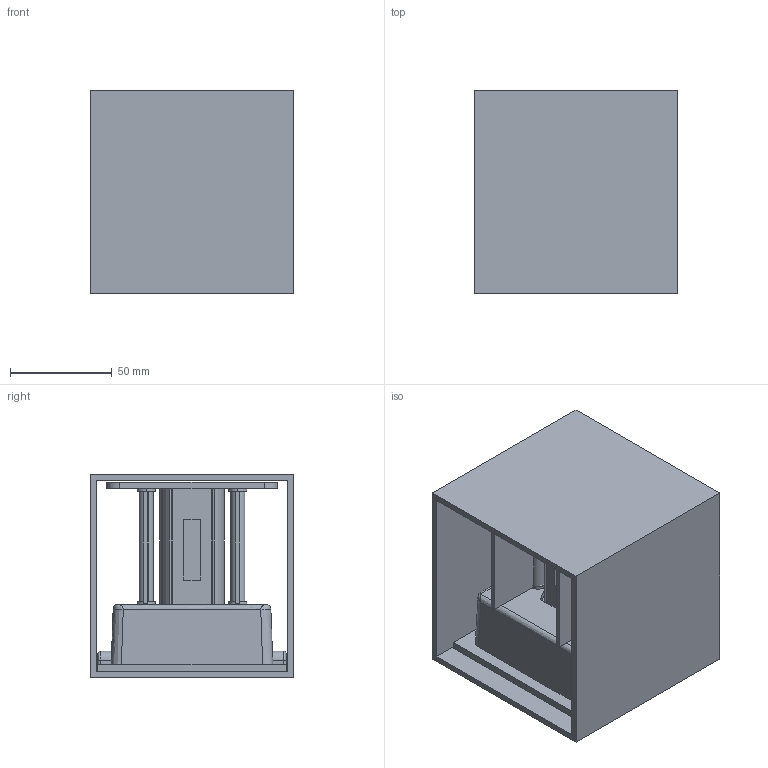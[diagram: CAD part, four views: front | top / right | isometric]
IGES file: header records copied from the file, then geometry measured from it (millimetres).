
Start section: SolidWorks IGES file using analytic representation for surfaces
Global section: file name: \\srvficheros\grupos\DISENYO\DESARROLLO DE PRODUCTO\_3D_WEB\KENDO-A2032070\KENDO-A2032070.IGS; native system: SolidWorks 2025; preprocessor: SolidWorks 2025; author: d.pons; date: 260114.092945; units: millimetre
Bounding box: 100 x 100 x 100 mm (x, y, z)
Surface area: 165157.6 mm2 (no closed solid volume)
Topology: 0 solids, 0 shells, 645 faces, 7404 edges, 7402 vertices
Faces by surface type: bspline 409, revolution 236
